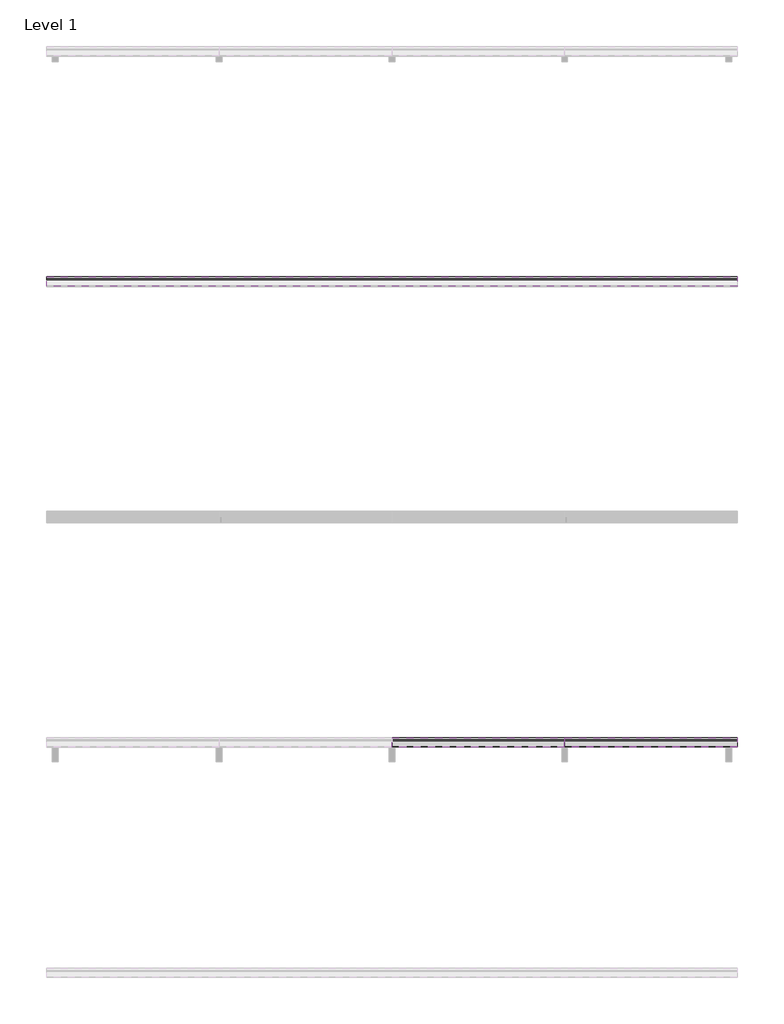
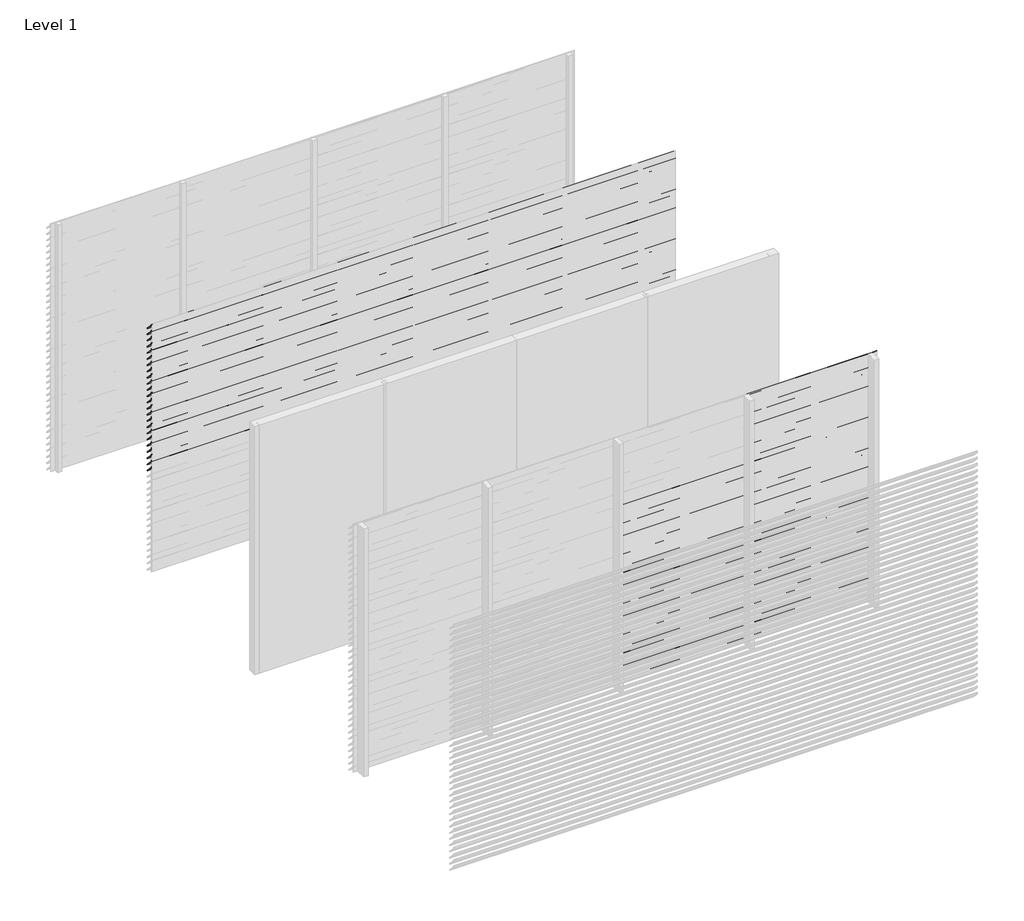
# One storey, part 3 of 9: 93 proxies.
"""IFC4 building model written with IfcOpenShell, lengths in millimetres."""

from ifc_helpers import new_model, si_unit, frame, origin, place, context, project, spatial, polyline, outline, extrude, element, save

model = new_model("IFC4")

# Units and contexts
model_context = context("Model", 3, world=origin())
ifc_project = project(units=[si_unit("LENGTHUNIT", "METRE", prefix="MILLI")], contexts=[model_context])

# Site, building, storey
site = spatial("IfcSite", under=ifc_project)
building = spatial("IfcBuilding", under=site)
storey = spatial("IfcBuildingStorey", under=building, Name="Level 1", Elevation=0.0)

# Proxies
placement = place(None, origin())
element("IfcBuildingElementProxy", 1, Name="Wall Sweeps", at=placement, inside=storey, context=model_context, shape_type="SweptSolid", body=[
    extrude(outline(polyline([(-13995.0, 3000.0), (-13995.0, 2987.7713645), (-13917.0, 2907.0), (-13917.0, 2898.0), (-13997.0, 2980.8424251), (-13997.0, 3000.0), (-13995.0, 3000.0)])), frame((0.0, 0.0, 0.0), z_axis=(1.0, 0.0, 0.0), x_axis=(0.0, 1.0, 0.0)), (0.0, 0.0, 1.0), 6000.0),
])
element("IfcBuildingElementProxy", 2, Name="Wall Sweeps", at=placement, inside=storey, context=model_context, shape_type="SweptSolid", body=[
    extrude(outline(polyline([(-13995.0, 2925.0), (-13995.0, 2912.7713645), (-13917.0, 2832.0), (-13917.0, 2823.0), (-13997.0, 2905.8424251), (-13997.0, 2925.0), (-13995.0, 2925.0)])), frame((0.0, 0.0, 0.0), z_axis=(1.0, 0.0, 0.0), x_axis=(0.0, 1.0, 0.0)), (0.0, 0.0, 1.0), 6000.0),
])
element("IfcBuildingElementProxy", 3, Name="Wall Sweeps", at=placement, inside=storey, context=model_context, shape_type="SweptSolid", body=[
    extrude(outline(polyline([(-13995.0, 2850.0), (-13995.0, 2837.7713645), (-13917.0, 2757.0), (-13917.0, 2748.0), (-13997.0, 2830.8424251), (-13997.0, 2850.0), (-13995.0, 2850.0)])), frame((0.0, 0.0, 0.0), z_axis=(1.0, 0.0, 0.0), x_axis=(0.0, 1.0, 0.0)), (0.0, 0.0, 1.0), 6000.0),
])
element("IfcBuildingElementProxy", 4, Name="Wall Sweeps", at=placement, inside=storey, context=model_context, shape_type="SweptSolid", body=[
    extrude(outline(polyline([(-13995.0, 2775.0), (-13995.0, 2762.7713645), (-13917.0, 2682.0), (-13917.0, 2673.0), (-13997.0, 2755.8424251), (-13997.0, 2775.0), (-13995.0, 2775.0)])), frame((0.0, 0.0, 0.0), z_axis=(1.0, 0.0, 0.0), x_axis=(0.0, 1.0, 0.0)), (0.0, 0.0, 1.0), 6000.0),
])
element("IfcBuildingElementProxy", 5, Name="Wall Sweeps", at=placement, inside=storey, context=model_context, shape_type="SweptSolid", body=[
    extrude(outline(polyline([(-13995.0, 2700.0), (-13995.0, 2687.7713645), (-13917.0, 2607.0), (-13917.0, 2598.0), (-13997.0, 2680.8424251), (-13997.0, 2700.0), (-13995.0, 2700.0)])), frame((0.0, 0.0, 0.0), z_axis=(1.0, 0.0, 0.0), x_axis=(0.0, 1.0, 0.0)), (0.0, 0.0, 1.0), 6000.0),
])
element("IfcBuildingElementProxy", 6, Name="Wall Sweeps", at=placement, inside=storey, context=model_context, shape_type="SweptSolid", body=[
    extrude(outline(polyline([(-13995.0, 2625.0), (-13995.0, 2612.7713645), (-13917.0, 2532.0), (-13917.0, 2523.0), (-13997.0, 2605.8424251), (-13997.0, 2625.0), (-13995.0, 2625.0)])), frame((0.0, 0.0, 0.0), z_axis=(1.0, 0.0, 0.0), x_axis=(0.0, 1.0, 0.0)), (0.0, 0.0, 1.0), 6000.0),
])
element("IfcBuildingElementProxy", 7, Name="Wall Sweeps", at=placement, inside=storey, context=model_context, shape_type="SweptSolid", body=[
    extrude(outline(polyline([(-13995.0, 2550.0), (-13995.0, 2537.7713645), (-13917.0, 2457.0), (-13917.0, 2448.0), (-13997.0, 2530.8424251), (-13997.0, 2550.0), (-13995.0, 2550.0)])), frame((0.0, 0.0, 0.0), z_axis=(1.0, 0.0, 0.0), x_axis=(0.0, 1.0, 0.0)), (0.0, 0.0, 1.0), 6000.0),
])
element("IfcBuildingElementProxy", 8, Name="Wall Sweeps", at=placement, inside=storey, context=model_context, shape_type="SweptSolid", body=[
    extrude(outline(polyline([(-13995.0, 2475.0), (-13995.0, 2462.7713645), (-13917.0, 2382.0), (-13917.0, 2373.0), (-13997.0, 2455.8424251), (-13997.0, 2475.0), (-13995.0, 2475.0)])), frame((0.0, 0.0, 0.0), z_axis=(1.0, 0.0, 0.0), x_axis=(0.0, 1.0, 0.0)), (0.0, 0.0, 1.0), 6000.0),
])
element("IfcBuildingElementProxy", 9, Name="Wall Sweeps", at=placement, inside=storey, context=model_context, shape_type="SweptSolid", body=[
    extrude(outline(polyline([(-13995.0, 2400.0), (-13995.0, 2387.7713645), (-13917.0, 2307.0), (-13917.0, 2298.0), (-13997.0, 2380.8424251), (-13997.0, 2400.0), (-13995.0, 2400.0)])), frame((0.0, 0.0, 0.0), z_axis=(1.0, 0.0, 0.0), x_axis=(0.0, 1.0, 0.0)), (0.0, 0.0, 1.0), 6000.0),
])
element("IfcBuildingElementProxy", 10, Name="Wall Sweeps", at=placement, inside=storey, context=model_context, shape_type="SweptSolid", body=[
    extrude(outline(polyline([(-13995.0, 2325.0), (-13995.0, 2312.7713645), (-13917.0, 2232.0), (-13917.0, 2223.0), (-13997.0, 2305.8424251), (-13997.0, 2325.0), (-13995.0, 2325.0)])), frame((0.0, 0.0, 0.0), z_axis=(1.0, 0.0, 0.0), x_axis=(0.0, 1.0, 0.0)), (0.0, 0.0, 1.0), 6000.0),
])
element("IfcBuildingElementProxy", 11, Name="Wall Sweeps", at=placement, inside=storey, context=model_context, shape_type="SweptSolid", body=[
    extrude(outline(polyline([(-13995.0, 2250.0), (-13995.0, 2237.7713645), (-13917.0, 2157.0), (-13917.0, 2148.0), (-13997.0, 2230.8424251), (-13997.0, 2250.0), (-13995.0, 2250.0)])), frame((0.0, 0.0, 0.0), z_axis=(1.0, 0.0, 0.0), x_axis=(0.0, 1.0, 0.0)), (0.0, 0.0, 1.0), 6000.0),
])
element("IfcBuildingElementProxy", 12, Name="Wall Sweeps", at=placement, inside=storey, context=model_context, shape_type="SweptSolid", body=[
    extrude(outline(polyline([(-13995.0, 2175.0), (-13995.0, 2162.7713645), (-13917.0, 2082.0), (-13917.0, 2073.0), (-13997.0, 2155.8424251), (-13997.0, 2175.0), (-13995.0, 2175.0)])), frame((0.0, 0.0, 0.0), z_axis=(1.0, 0.0, 0.0), x_axis=(0.0, 1.0, 0.0)), (0.0, 0.0, 1.0), 6000.0),
])
element("IfcBuildingElementProxy", 13, Name="Wall Sweeps", at=placement, inside=storey, context=model_context, shape_type="SweptSolid", body=[
    extrude(outline(polyline([(-13995.0, 2100.0), (-13995.0, 2087.7713645), (-13917.0, 2007.0), (-13917.0, 1998.0), (-13997.0, 2080.8424251), (-13997.0, 2100.0), (-13995.0, 2100.0)])), frame((0.0, 0.0, 0.0), z_axis=(1.0, 0.0, 0.0), x_axis=(0.0, 1.0, 0.0)), (0.0, 0.0, 1.0), 6000.0),
])
element("IfcBuildingElementProxy", 14, Name="Wall Sweeps", at=placement, inside=storey, context=model_context, shape_type="SweptSolid", body=[
    extrude(outline(polyline([(-13995.0, 2025.0), (-13995.0, 2012.7713645), (-13917.0, 1932.0), (-13917.0, 1923.0), (-13997.0, 2005.8424251), (-13997.0, 2025.0), (-13995.0, 2025.0)])), frame((0.0, 0.0, 0.0), z_axis=(1.0, 0.0, 0.0), x_axis=(0.0, 1.0, 0.0)), (0.0, 0.0, 1.0), 6000.0),
])
element("IfcBuildingElementProxy", 15, Name="Wall Sweeps", at=placement, inside=storey, context=model_context, shape_type="SweptSolid", body=[
    extrude(outline(polyline([(-13995.0, 1950.0), (-13995.0, 1937.7713645), (-13917.0, 1857.0), (-13917.0, 1848.0), (-13997.0, 1930.8424251), (-13997.0, 1950.0), (-13995.0, 1950.0)])), frame((0.0, 0.0, 0.0), z_axis=(1.0, 0.0, 0.0), x_axis=(0.0, 1.0, 0.0)), (0.0, 0.0, 1.0), 6000.0),
])
element("IfcBuildingElementProxy", 16, Name="Wall Sweeps", at=placement, inside=storey, context=model_context, shape_type="SweptSolid", body=[
    extrude(outline(polyline([(-13995.0, 1875.0), (-13995.0, 1862.7713645), (-13917.0, 1782.0), (-13917.0, 1773.0), (-13997.0, 1855.8424251), (-13997.0, 1875.0), (-13995.0, 1875.0)])), frame((0.0, 0.0, 0.0), z_axis=(1.0, 0.0, 0.0), x_axis=(0.0, 1.0, 0.0)), (0.0, 0.0, 1.0), 6000.0),
])
element("IfcBuildingElementProxy", 17, Name="Wall Sweeps", at=placement, inside=storey, context=model_context, shape_type="SweptSolid", body=[
    extrude(outline(polyline([(-13995.0, 1800.0), (-13995.0, 1787.7713645), (-13917.0, 1707.0), (-13917.0, 1698.0), (-13997.0, 1780.8424251), (-13997.0, 1800.0), (-13995.0, 1800.0)])), frame((0.0, 0.0, 0.0), z_axis=(1.0, 0.0, 0.0), x_axis=(0.0, 1.0, 0.0)), (0.0, 0.0, 1.0), 6000.0),
])
element("IfcBuildingElementProxy", 18, Name="Wall Sweeps", at=placement, inside=storey, context=model_context, shape_type="SweptSolid", body=[
    extrude(outline(polyline([(-13995.0, 1725.0), (-13995.0, 1712.7713645), (-13917.0, 1632.0), (-13917.0, 1623.0), (-13997.0, 1705.8424251), (-13997.0, 1725.0), (-13995.0, 1725.0)])), frame((0.0, 0.0, 0.0), z_axis=(1.0, 0.0, 0.0), x_axis=(0.0, 1.0, 0.0)), (0.0, 0.0, 1.0), 6000.0),
])
element("IfcBuildingElementProxy", 19, Name="Wall Sweeps", at=placement, inside=storey, context=model_context, shape_type="SweptSolid", body=[
    extrude(outline(polyline([(-13995.0, 1650.0), (-13995.0, 1637.7713645), (-13917.0, 1557.0), (-13917.0, 1548.0), (-13997.0, 1630.8424251), (-13997.0, 1650.0), (-13995.0, 1650.0)])), frame((0.0, 0.0, 0.0), z_axis=(1.0, 0.0, 0.0), x_axis=(0.0, 1.0, 0.0)), (0.0, 0.0, 1.0), 6000.0),
])
element("IfcBuildingElementProxy", 20, Name="Wall Sweeps", at=placement, inside=storey, context=model_context, shape_type="SweptSolid", body=[
    extrude(outline(polyline([(-13995.0, 1575.0), (-13995.0, 1562.7713645), (-13917.0, 1482.0), (-13917.0, 1473.0), (-13997.0, 1555.8424251), (-13997.0, 1575.0), (-13995.0, 1575.0)])), frame((0.0, 0.0, 0.0), z_axis=(1.0, 0.0, 0.0), x_axis=(0.0, 1.0, 0.0)), (0.0, 0.0, 1.0), 6000.0),
])
element("IfcBuildingElementProxy", 21, Name="Wall Sweeps", at=placement, inside=storey, context=model_context, shape_type="SweptSolid", body=[
    extrude(outline(polyline([(-13995.0, 1500.0), (-13995.0, 1487.7713645), (-13917.0, 1407.0), (-13917.0, 1398.0), (-13997.0, 1480.8424251), (-13997.0, 1500.0), (-13995.0, 1500.0)])), frame((0.0, 0.0, 0.0), z_axis=(1.0, 0.0, 0.0), x_axis=(0.0, 1.0, 0.0)), (0.0, 0.0, 1.0), 6000.0),
])
element("IfcBuildingElementProxy", 22, Name="Wall Sweeps", at=placement, inside=storey, context=model_context, shape_type="SweptSolid", body=[
    extrude(outline(polyline([(-13995.0, 1425.0), (-13995.0, 1412.7713645), (-13917.0, 1332.0), (-13917.0, 1323.0), (-13997.0, 1405.8424251), (-13997.0, 1425.0), (-13995.0, 1425.0)])), frame((0.0, 0.0, 0.0), z_axis=(1.0, 0.0, 0.0), x_axis=(0.0, 1.0, 0.0)), (0.0, 0.0, 1.0), 6000.0),
])
element("IfcBuildingElementProxy", 23, Name="Wall Sweeps", at=placement, inside=storey, context=model_context, shape_type="SweptSolid", body=[
    extrude(outline(polyline([(-13995.0, 1350.0), (-13995.0, 1337.7713645), (-13917.0, 1257.0), (-13917.0, 1248.0), (-13997.0, 1330.8424251), (-13997.0, 1350.0), (-13995.0, 1350.0)])), frame((0.0, 0.0, 0.0), z_axis=(1.0, 0.0, 0.0), x_axis=(0.0, 1.0, 0.0)), (0.0, 0.0, 1.0), 6000.0),
])
element("IfcBuildingElementProxy", 24, Name="Wall Sweeps", at=placement, inside=storey, context=model_context, shape_type="SweptSolid", body=[
    extrude(outline(polyline([(-13995.0, 1275.0), (-13995.0, 1262.7713645), (-13917.0, 1182.0), (-13917.0, 1173.0), (-13997.0, 1255.8424251), (-13997.0, 1275.0), (-13995.0, 1275.0)])), frame((0.0, 0.0, 0.0), z_axis=(1.0, 0.0, 0.0), x_axis=(0.0, 1.0, 0.0)), (0.0, 0.0, 1.0), 6000.0),
])
element("IfcBuildingElementProxy", 25, Name="Wall Sweeps", at=placement, inside=storey, context=model_context, shape_type="SweptSolid", body=[
    extrude(outline(polyline([(-17995.0, 3000.0), (-17995.0, 2987.7713645), (-17917.0, 2907.0), (-17917.0, 2898.0), (-17997.0, 2980.8424251), (-17997.0, 3000.0), (-17995.0, 3000.0)])), frame((4499.9999998, 0.0, 0.0), z_axis=(1.0, 0.0, 0.0), x_axis=(0.0, 1.0, 0.0)), (0.0, 0.0, 1.0), 1500.0000002),
])
element("IfcBuildingElementProxy", 26, Name="Wall Sweeps", at=placement, inside=storey, context=model_context, shape_type="SweptSolid", body=[
    extrude(outline(polyline([(-17995.0, 2925.0), (-17995.0, 2912.7713645), (-17917.0, 2832.0), (-17917.0, 2823.0), (-17997.0, 2905.8424251), (-17997.0, 2925.0), (-17995.0, 2925.0)])), frame((4499.9999998, 0.0, 0.0), z_axis=(1.0, 0.0, 0.0), x_axis=(0.0, 1.0, 0.0)), (0.0, 0.0, 1.0), 1500.0000002),
])
element("IfcBuildingElementProxy", 27, Name="Wall Sweeps", at=placement, inside=storey, context=model_context, shape_type="SweptSolid", body=[
    extrude(outline(polyline([(-17995.0, 2850.0), (-17995.0, 2837.7713645), (-17917.0, 2757.0), (-17917.0, 2748.0), (-17997.0, 2830.8424251), (-17997.0, 2850.0), (-17995.0, 2850.0)])), frame((4499.9999998, 0.0, 0.0), z_axis=(1.0, 0.0, 0.0), x_axis=(0.0, 1.0, 0.0)), (0.0, 0.0, 1.0), 1500.0000002),
])
element("IfcBuildingElementProxy", 28, Name="Wall Sweeps", at=placement, inside=storey, context=model_context, shape_type="SweptSolid", body=[
    extrude(outline(polyline([(-17995.0, 2775.0), (-17995.0, 2762.7713645), (-17917.0, 2682.0), (-17917.0, 2673.0), (-17997.0, 2755.8424251), (-17997.0, 2775.0), (-17995.0, 2775.0)])), frame((4499.9999998, 0.0, 0.0), z_axis=(1.0, 0.0, 0.0), x_axis=(0.0, 1.0, 0.0)), (0.0, 0.0, 1.0), 1500.0000002),
])
element("IfcBuildingElementProxy", 29, Name="Wall Sweeps", at=placement, inside=storey, context=model_context, shape_type="SweptSolid", body=[
    extrude(outline(polyline([(-17995.0, 2700.0), (-17995.0, 2687.7713645), (-17917.0, 2607.0), (-17917.0, 2598.0), (-17997.0, 2680.8424251), (-17997.0, 2700.0), (-17995.0, 2700.0)])), frame((4499.9999998, 0.0, 0.0), z_axis=(1.0, 0.0, 0.0), x_axis=(0.0, 1.0, 0.0)), (0.0, 0.0, 1.0), 1500.0000002),
])
element("IfcBuildingElementProxy", 30, Name="Wall Sweeps", at=placement, inside=storey, context=model_context, shape_type="SweptSolid", body=[
    extrude(outline(polyline([(-17995.0, 2625.0), (-17995.0, 2612.7713645), (-17917.0, 2532.0), (-17917.0, 2523.0), (-17997.0, 2605.8424251), (-17997.0, 2625.0), (-17995.0, 2625.0)])), frame((4499.9999998, 0.0, 0.0), z_axis=(1.0, 0.0, 0.0), x_axis=(0.0, 1.0, 0.0)), (0.0, 0.0, 1.0), 1500.0000002),
])
element("IfcBuildingElementProxy", 31, Name="Wall Sweeps", at=placement, inside=storey, context=model_context, shape_type="SweptSolid", body=[
    extrude(outline(polyline([(-17995.0, 2550.0), (-17995.0, 2537.7713645), (-17917.0, 2457.0), (-17917.0, 2448.0), (-17997.0, 2530.8424251), (-17997.0, 2550.0), (-17995.0, 2550.0)])), frame((4499.9999998, 0.0, 0.0), z_axis=(1.0, 0.0, 0.0), x_axis=(0.0, 1.0, 0.0)), (0.0, 0.0, 1.0), 1500.0000002),
])
element("IfcBuildingElementProxy", 32, Name="Wall Sweeps", at=placement, inside=storey, context=model_context, shape_type="SweptSolid", body=[
    extrude(outline(polyline([(-17995.0, 2475.0), (-17995.0, 2462.7713645), (-17917.0, 2382.0), (-17917.0, 2373.0), (-17997.0, 2455.8424251), (-17997.0, 2475.0), (-17995.0, 2475.0)])), frame((4499.9999998, 0.0, 0.0), z_axis=(1.0, 0.0, 0.0), x_axis=(0.0, 1.0, 0.0)), (0.0, 0.0, 1.0), 1500.0000002),
])
element("IfcBuildingElementProxy", 33, Name="Wall Sweeps", at=placement, inside=storey, context=model_context, shape_type="SweptSolid", body=[
    extrude(outline(polyline([(-17995.0, 2400.0), (-17995.0, 2387.7713645), (-17917.0, 2307.0), (-17917.0, 2298.0), (-17997.0, 2380.8424251), (-17997.0, 2400.0), (-17995.0, 2400.0)])), frame((4499.9999998, 0.0, 0.0), z_axis=(1.0, 0.0, 0.0), x_axis=(0.0, 1.0, 0.0)), (0.0, 0.0, 1.0), 1500.0000002),
])
element("IfcBuildingElementProxy", 34, Name="Wall Sweeps", at=placement, inside=storey, context=model_context, shape_type="SweptSolid", body=[
    extrude(outline(polyline([(-17995.0, 2325.0), (-17995.0, 2312.7713645), (-17917.0, 2232.0), (-17917.0, 2223.0), (-17997.0, 2305.8424251), (-17997.0, 2325.0), (-17995.0, 2325.0)])), frame((4499.9999998, 0.0, 0.0), z_axis=(1.0, 0.0, 0.0), x_axis=(0.0, 1.0, 0.0)), (0.0, 0.0, 1.0), 1500.0000002),
])
element("IfcBuildingElementProxy", 35, Name="Wall Sweeps", at=placement, inside=storey, context=model_context, shape_type="SweptSolid", body=[
    extrude(outline(polyline([(-17995.0, 2250.0), (-17995.0, 2237.7713645), (-17917.0, 2157.0), (-17917.0, 2148.0), (-17997.0, 2230.8424251), (-17997.0, 2250.0), (-17995.0, 2250.0)])), frame((4499.9999998, 0.0, 0.0), z_axis=(1.0, 0.0, 0.0), x_axis=(0.0, 1.0, 0.0)), (0.0, 0.0, 1.0), 1500.0000002),
])
element("IfcBuildingElementProxy", 36, Name="Wall Sweeps", at=placement, inside=storey, context=model_context, shape_type="SweptSolid", body=[
    extrude(outline(polyline([(-17995.0, 2175.0), (-17995.0, 2162.7713645), (-17917.0, 2082.0), (-17917.0, 2073.0), (-17997.0, 2155.8424251), (-17997.0, 2175.0), (-17995.0, 2175.0)])), frame((4499.9999998, 0.0, 0.0), z_axis=(1.0, 0.0, 0.0), x_axis=(0.0, 1.0, 0.0)), (0.0, 0.0, 1.0), 1500.0000002),
])
element("IfcBuildingElementProxy", 37, Name="Wall Sweeps", at=placement, inside=storey, context=model_context, shape_type="SweptSolid", body=[
    extrude(outline(polyline([(-17995.0, 2100.0), (-17995.0, 2087.7713645), (-17917.0, 2007.0), (-17917.0, 1998.0), (-17997.0, 2080.8424251), (-17997.0, 2100.0), (-17995.0, 2100.0)])), frame((4499.9999998, 0.0, 0.0), z_axis=(1.0, 0.0, 0.0), x_axis=(0.0, 1.0, 0.0)), (0.0, 0.0, 1.0), 1500.0000002),
])
element("IfcBuildingElementProxy", 38, Name="Wall Sweeps", at=placement, inside=storey, context=model_context, shape_type="SweptSolid", body=[
    extrude(outline(polyline([(-17995.0, 2025.0), (-17995.0, 2012.7713645), (-17917.0, 1932.0), (-17917.0, 1923.0), (-17997.0, 2005.8424251), (-17997.0, 2025.0), (-17995.0, 2025.0)])), frame((4499.9999998, 0.0, 0.0), z_axis=(1.0, 0.0, 0.0), x_axis=(0.0, 1.0, 0.0)), (0.0, 0.0, 1.0), 1500.0000002),
])
element("IfcBuildingElementProxy", 39, Name="Wall Sweeps", at=placement, inside=storey, context=model_context, shape_type="SweptSolid", body=[
    extrude(outline(polyline([(-17995.0, 1950.0), (-17995.0, 1937.7713645), (-17917.0, 1857.0), (-17917.0, 1848.0), (-17997.0, 1930.8424251), (-17997.0, 1950.0), (-17995.0, 1950.0)])), frame((4499.9999998, 0.0, 0.0), z_axis=(1.0, 0.0, 0.0), x_axis=(0.0, 1.0, 0.0)), (0.0, 0.0, 1.0), 1500.0000002),
])
element("IfcBuildingElementProxy", 40, Name="Wall Sweeps", at=placement, inside=storey, context=model_context, shape_type="SweptSolid", body=[
    extrude(outline(polyline([(-17995.0, 1875.0), (-17995.0, 1862.7713645), (-17917.0, 1782.0), (-17917.0, 1773.0), (-17997.0, 1855.8424251), (-17997.0, 1875.0), (-17995.0, 1875.0)])), frame((4499.9999998, 0.0, 0.0), z_axis=(1.0, 0.0, 0.0), x_axis=(0.0, 1.0, 0.0)), (0.0, 0.0, 1.0), 1500.0000002),
])
element("IfcBuildingElementProxy", 41, Name="Wall Sweeps", at=placement, inside=storey, context=model_context, shape_type="SweptSolid", body=[
    extrude(outline(polyline([(-17995.0, 1800.0), (-17995.0, 1787.7713645), (-17917.0, 1707.0), (-17917.0, 1698.0), (-17997.0, 1780.8424251), (-17997.0, 1800.0), (-17995.0, 1800.0)])), frame((4499.9999998, 0.0, 0.0), z_axis=(1.0, 0.0, 0.0), x_axis=(0.0, 1.0, 0.0)), (0.0, 0.0, 1.0), 1500.0000002),
])
element("IfcBuildingElementProxy", 42, Name="Wall Sweeps", at=placement, inside=storey, context=model_context, shape_type="SweptSolid", body=[
    extrude(outline(polyline([(-17995.0, 1725.0), (-17995.0, 1712.7713645), (-17917.0, 1632.0), (-17917.0, 1623.0), (-17997.0, 1705.8424251), (-17997.0, 1725.0), (-17995.0, 1725.0)])), frame((4499.9999998, 0.0, 0.0), z_axis=(1.0, 0.0, 0.0), x_axis=(0.0, 1.0, 0.0)), (0.0, 0.0, 1.0), 1500.0000002),
])
element("IfcBuildingElementProxy", 43, Name="Wall Sweeps", at=placement, inside=storey, context=model_context, shape_type="SweptSolid", body=[
    extrude(outline(polyline([(-17995.0, 1650.0), (-17995.0, 1637.7713645), (-17917.0, 1557.0), (-17917.0, 1548.0), (-17997.0, 1630.8424251), (-17997.0, 1650.0), (-17995.0, 1650.0)])), frame((4499.9999998, 0.0, 0.0), z_axis=(1.0, 0.0, 0.0), x_axis=(0.0, 1.0, 0.0)), (0.0, 0.0, 1.0), 1500.0000002),
])
element("IfcBuildingElementProxy", 44, Name="Wall Sweeps", at=placement, inside=storey, context=model_context, shape_type="SweptSolid", body=[
    extrude(outline(polyline([(-17995.0, 1575.0), (-17995.0, 1562.7713645), (-17917.0, 1482.0), (-17917.0, 1473.0), (-17997.0, 1555.8424251), (-17997.0, 1575.0), (-17995.0, 1575.0)])), frame((4499.9999998, 0.0, 0.0), z_axis=(1.0, 0.0, 0.0), x_axis=(0.0, 1.0, 0.0)), (0.0, 0.0, 1.0), 1500.0000002),
])
element("IfcBuildingElementProxy", 45, Name="Wall Sweeps", at=placement, inside=storey, context=model_context, shape_type="SweptSolid", body=[
    extrude(outline(polyline([(-17995.0, 1500.0), (-17995.0, 1487.7713645), (-17917.0, 1407.0), (-17917.0, 1398.0), (-17997.0, 1480.8424251), (-17997.0, 1500.0), (-17995.0, 1500.0)])), frame((4499.9999998, 0.0, 0.0), z_axis=(1.0, 0.0, 0.0), x_axis=(0.0, 1.0, 0.0)), (0.0, 0.0, 1.0), 1500.0000002),
])
element("IfcBuildingElementProxy", 46, Name="Wall Sweeps", at=placement, inside=storey, context=model_context, shape_type="SweptSolid", body=[
    extrude(outline(polyline([(-17995.0, 1425.0), (-17995.0, 1412.7713645), (-17917.0, 1332.0), (-17917.0, 1323.0), (-17997.0, 1405.8424251), (-17997.0, 1425.0), (-17995.0, 1425.0)])), frame((4499.9999998, 0.0, 0.0), z_axis=(1.0, 0.0, 0.0), x_axis=(0.0, 1.0, 0.0)), (0.0, 0.0, 1.0), 1500.0000002),
])
element("IfcBuildingElementProxy", 47, Name="Wall Sweeps", at=placement, inside=storey, context=model_context, shape_type="SweptSolid", body=[
    extrude(outline(polyline([(-17995.0, 1350.0), (-17995.0, 1337.7713645), (-17917.0, 1257.0), (-17917.0, 1248.0), (-17997.0, 1330.8424251), (-17997.0, 1350.0), (-17995.0, 1350.0)])), frame((4499.9999998, 0.0, 0.0), z_axis=(1.0, 0.0, 0.0), x_axis=(0.0, 1.0, 0.0)), (0.0, 0.0, 1.0), 1500.0000002),
])
element("IfcBuildingElementProxy", 48, Name="Wall Sweeps", at=placement, inside=storey, context=model_context, shape_type="SweptSolid", body=[
    extrude(outline(polyline([(-17995.0, 1275.0), (-17995.0, 1262.7713645), (-17917.0, 1182.0), (-17917.0, 1173.0), (-17997.0, 1255.8424251), (-17997.0, 1275.0), (-17995.0, 1275.0)])), frame((4499.9999998, 0.0, 0.0), z_axis=(1.0, 0.0, 0.0), x_axis=(0.0, 1.0, 0.0)), (0.0, 0.0, 1.0), 1500.0000002),
])
element("IfcBuildingElementProxy", 49, Name="Wall Sweeps", at=placement, inside=storey, context=model_context, shape_type="SweptSolid", body=[
    extrude(outline(polyline([(-17995.0, 1200.0), (-17995.0, 1187.7713645), (-17917.0, 1107.0), (-17917.0, 1098.0), (-17997.0, 1180.8424251), (-17997.0, 1200.0), (-17995.0, 1200.0)])), frame((4499.9999998, 0.0, 0.0), z_axis=(1.0, 0.0, 0.0), x_axis=(0.0, 1.0, 0.0)), (0.0, 0.0, 1.0), 1500.0000002),
])
element("IfcBuildingElementProxy", 50, Name="Wall Sweeps", at=placement, inside=storey, context=model_context, shape_type="SweptSolid", body=[
    extrude(outline(polyline([(-17995.0, 1125.0), (-17995.0, 1112.7713645), (-17917.0, 1032.0), (-17917.0, 1023.0), (-17997.0, 1105.8424251), (-17997.0, 1125.0), (-17995.0, 1125.0)])), frame((4499.9999998, 0.0, 0.0), z_axis=(1.0, 0.0, 0.0), x_axis=(0.0, 1.0, 0.0)), (0.0, 0.0, 1.0), 1500.0000002),
])
element("IfcBuildingElementProxy", 51, Name="Wall Sweeps", at=placement, inside=storey, context=model_context, shape_type="SweptSolid", body=[
    extrude(outline(polyline([(-17995.0, 1050.0), (-17995.0, 1037.7713645), (-17917.0, 957.0), (-17917.0, 948.0), (-17997.0, 1030.8424251), (-17997.0, 1050.0), (-17995.0, 1050.0)])), frame((4499.9999998, 0.0, 0.0), z_axis=(1.0, 0.0, 0.0), x_axis=(0.0, 1.0, 0.0)), (0.0, 0.0, 1.0), 1500.0000002),
])
element("IfcBuildingElementProxy", 52, Name="Wall Sweeps", at=placement, inside=storey, context=model_context, shape_type="SweptSolid", body=[
    extrude(outline(polyline([(-17995.0, 975.0), (-17995.0, 962.7713645), (-17917.0, 882.0), (-17917.0, 873.0), (-17997.0, 955.8424251), (-17997.0, 975.0), (-17995.0, 975.0)])), frame((4499.9999998, 0.0, 0.0), z_axis=(1.0, 0.0, 0.0), x_axis=(0.0, 1.0, 0.0)), (0.0, 0.0, 1.0), 1500.0000002),
])
element("IfcBuildingElementProxy", 53, Name="Wall Sweeps", at=placement, inside=storey, context=model_context, shape_type="SweptSolid", body=[
    extrude(outline(polyline([(-17995.0, 900.0), (-17995.0, 887.7713645), (-17917.0, 807.0), (-17917.0, 798.0), (-17997.0, 880.8424251), (-17997.0, 900.0), (-17995.0, 900.0)])), frame((4499.9999998, 0.0, 0.0), z_axis=(1.0, 0.0, 0.0), x_axis=(0.0, 1.0, 0.0)), (0.0, 0.0, 1.0), 1500.0000002),
])
element("IfcBuildingElementProxy", 54, Name="Wall Sweeps", at=placement, inside=storey, context=model_context, shape_type="SweptSolid", body=[
    extrude(outline(polyline([(-17995.0, 825.0), (-17995.0, 812.7713645), (-17917.0, 732.0), (-17917.0, 723.0), (-17997.0, 805.8424251), (-17997.0, 825.0), (-17995.0, 825.0)])), frame((4499.9999998, 0.0, 0.0), z_axis=(1.0, 0.0, 0.0), x_axis=(0.0, 1.0, 0.0)), (0.0, 0.0, 1.0), 1500.0000002),
])
element("IfcBuildingElementProxy", 55, Name="Wall Sweeps", at=placement, inside=storey, context=model_context, shape_type="SweptSolid", body=[
    extrude(outline(polyline([(-17995.0, 750.0), (-17995.0, 737.7713645), (-17917.0, 657.0), (-17917.0, 648.0), (-17997.0, 730.8424251), (-17997.0, 750.0), (-17995.0, 750.0)])), frame((4499.9999998, 0.0, 0.0), z_axis=(1.0, 0.0, 0.0), x_axis=(0.0, 1.0, 0.0)), (0.0, 0.0, 1.0), 1500.0000002),
])
element("IfcBuildingElementProxy", 56, Name="Wall Sweeps", at=placement, inside=storey, context=model_context, shape_type="SweptSolid", body=[
    extrude(outline(polyline([(-17995.0, 675.0), (-17995.0, 662.7713645), (-17917.0, 582.0), (-17917.0, 573.0), (-17997.0, 655.8424251), (-17997.0, 675.0), (-17995.0, 675.0)])), frame((4499.9999998, 0.0, 0.0), z_axis=(1.0, 0.0, 0.0), x_axis=(0.0, 1.0, 0.0)), (0.0, 0.0, 1.0), 1500.0000002),
])
element("IfcBuildingElementProxy", 57, Name="Wall Sweeps", at=placement, inside=storey, context=model_context, shape_type="SweptSolid", body=[
    extrude(outline(polyline([(-17995.0, 600.0), (-17995.0, 587.7713645), (-17917.0, 507.0), (-17917.0, 498.0), (-17997.0, 580.8424251), (-17997.0, 600.0), (-17995.0, 600.0)])), frame((4499.9999998, 0.0, 0.0), z_axis=(1.0, 0.0, 0.0), x_axis=(0.0, 1.0, 0.0)), (0.0, 0.0, 1.0), 1500.0000002),
])
element("IfcBuildingElementProxy", 58, Name="Wall Sweeps", at=placement, inside=storey, context=model_context, shape_type="SweptSolid", body=[
    extrude(outline(polyline([(-17995.0, 525.0), (-17995.0, 512.7713645), (-17917.0, 432.0), (-17917.0, 423.0), (-17997.0, 505.8424251), (-17997.0, 525.0), (-17995.0, 525.0)])), frame((4499.9999998, 0.0, 0.0), z_axis=(1.0, 0.0, 0.0), x_axis=(0.0, 1.0, 0.0)), (0.0, 0.0, 1.0), 1500.0000002),
])
element("IfcBuildingElementProxy", 59, Name="Wall Sweeps", at=placement, inside=storey, context=model_context, shape_type="SweptSolid", body=[
    extrude(outline(polyline([(-17995.0, 450.0), (-17995.0, 437.7713645), (-17917.0, 357.0), (-17917.0, 348.0), (-17997.0, 430.8424251), (-17997.0, 450.0), (-17995.0, 450.0)])), frame((4499.9999998, 0.0, 0.0), z_axis=(1.0, 0.0, 0.0), x_axis=(0.0, 1.0, 0.0)), (0.0, 0.0, 1.0), 1500.0000002),
])
element("IfcBuildingElementProxy", 60, Name="Wall Sweeps", at=placement, inside=storey, context=model_context, shape_type="SweptSolid", body=[
    extrude(outline(polyline([(-17995.0, 375.0), (-17995.0, 362.7713645), (-17917.0, 282.0), (-17917.0, 273.0), (-17997.0, 355.8424251), (-17997.0, 375.0), (-17995.0, 375.0)])), frame((4499.9999998, 0.0, 0.0), z_axis=(1.0, 0.0, 0.0), x_axis=(0.0, 1.0, 0.0)), (0.0, 0.0, 1.0), 1500.0000002),
])
element("IfcBuildingElementProxy", 61, Name="Wall Sweeps", at=placement, inside=storey, context=model_context, shape_type="SweptSolid", body=[
    extrude(outline(polyline([(-17995.0, 300.0), (-17995.0, 287.7713645), (-17917.0, 207.0), (-17917.0, 198.0), (-17997.0, 280.8424251), (-17997.0, 300.0), (-17995.0, 300.0)])), frame((4499.9999998, 0.0, 0.0), z_axis=(1.0, 0.0, 0.0), x_axis=(0.0, 1.0, 0.0)), (0.0, 0.0, 1.0), 1500.0000002),
])
element("IfcBuildingElementProxy", 62, Name="Wall Sweeps", at=placement, inside=storey, context=model_context, shape_type="SweptSolid", body=[
    extrude(outline(polyline([(-17995.0, 225.0), (-17995.0, 212.7713645), (-17917.0, 132.0), (-17917.0, 123.0), (-17997.0, 205.8424251), (-17997.0, 225.0), (-17995.0, 225.0)])), frame((4499.9999998, 0.0, 0.0), z_axis=(1.0, 0.0, 0.0), x_axis=(0.0, 1.0, 0.0)), (0.0, 0.0, 1.0), 1500.0000002),
])
element("IfcBuildingElementProxy", 63, Name="Wall Sweeps", at=placement, inside=storey, context=model_context, shape_type="SweptSolid", body=[
    extrude(outline(polyline([(-17995.0, 150.0), (-17995.0, 137.7713645), (-17917.0, 57.0), (-17917.0, 48.0), (-17997.0, 130.8424251), (-17997.0, 150.0), (-17995.0, 150.0)])), frame((4499.9999998, 0.0, 0.0), z_axis=(1.0, 0.0, 0.0), x_axis=(0.0, 1.0, 0.0)), (0.0, 0.0, 1.0), 1500.0000002),
])
element("IfcBuildingElementProxy", 64, Name="Wall Sweeps", at=placement, inside=storey, context=model_context, shape_type="SweptSolid", body=[
    extrude(outline(polyline([(-17995.0, 75.0), (-17995.0, 62.7713645), (-17917.0, -18.0), (-17917.0, -27.0), (-17997.0, 55.8424251), (-17997.0, 75.0), (-17995.0, 75.0)])), frame((4499.9999998, 0.0, 0.0), z_axis=(1.0, 0.0, 0.0), x_axis=(0.0, 1.0, 0.0)), (0.0, 0.0, 1.0), 1500.0000002),
])
element("IfcBuildingElementProxy", 65, Name="Wall Sweeps", at=placement, inside=storey, context=model_context, shape_type="SweptSolid", body=[
    extrude(outline(polyline([(-17995.0, 2175.0), (-17995.0, 2162.7713645), (-17917.0, 2082.0), (-17917.0, 2073.0), (-17997.0, 2155.8424251), (-17997.0, 2175.0), (-17995.0, 2175.0)])), frame((3000.0, 0.0, 0.0), z_axis=(1.0, 0.0, 0.0), x_axis=(0.0, 1.0, 0.0)), (0.0, 0.0, 1.0), 1499.9999998),
])
element("IfcBuildingElementProxy", 66, Name="Wall Sweeps", at=placement, inside=storey, context=model_context, shape_type="SweptSolid", body=[
    extrude(outline(polyline([(-17995.0, 2100.0), (-17995.0, 2087.7713645), (-17917.0, 2007.0), (-17917.0, 1998.0), (-17997.0, 2080.8424251), (-17997.0, 2100.0), (-17995.0, 2100.0)])), frame((3000.0, 0.0, 0.0), z_axis=(1.0, 0.0, 0.0), x_axis=(0.0, 1.0, 0.0)), (0.0, 0.0, 1.0), 1499.9999998),
])
element("IfcBuildingElementProxy", 67, Name="Wall Sweeps", at=placement, inside=storey, context=model_context, shape_type="SweptSolid", body=[
    extrude(outline(polyline([(-17995.0, 2025.0), (-17995.0, 2012.7713645), (-17917.0, 1932.0), (-17917.0, 1923.0), (-17997.0, 2005.8424251), (-17997.0, 2025.0), (-17995.0, 2025.0)])), frame((3000.0, 0.0, 0.0), z_axis=(1.0, 0.0, 0.0), x_axis=(0.0, 1.0, 0.0)), (0.0, 0.0, 1.0), 1499.9999998),
])
element("IfcBuildingElementProxy", 68, Name="Wall Sweeps", at=placement, inside=storey, context=model_context, shape_type="SweptSolid", body=[
    extrude(outline(polyline([(-17995.0, 1950.0), (-17995.0, 1937.7713645), (-17917.0, 1857.0), (-17917.0, 1848.0), (-17997.0, 1930.8424251), (-17997.0, 1950.0), (-17995.0, 1950.0)])), frame((3000.0, 0.0, 0.0), z_axis=(1.0, 0.0, 0.0), x_axis=(0.0, 1.0, 0.0)), (0.0, 0.0, 1.0), 1499.9999998),
])
element("IfcBuildingElementProxy", 69, Name="Wall Sweeps", at=placement, inside=storey, context=model_context, shape_type="SweptSolid", body=[
    extrude(outline(polyline([(-17995.0, 1875.0), (-17995.0, 1862.7713645), (-17917.0, 1782.0), (-17917.0, 1773.0), (-17997.0, 1855.8424251), (-17997.0, 1875.0), (-17995.0, 1875.0)])), frame((3000.0, 0.0, 0.0), z_axis=(1.0, 0.0, 0.0), x_axis=(0.0, 1.0, 0.0)), (0.0, 0.0, 1.0), 1499.9999998),
])
element("IfcBuildingElementProxy", 70, Name="Wall Sweeps", at=placement, inside=storey, context=model_context, shape_type="SweptSolid", body=[
    extrude(outline(polyline([(-17995.0, 1800.0), (-17995.0, 1787.7713645), (-17917.0, 1707.0), (-17917.0, 1698.0), (-17997.0, 1780.8424251), (-17997.0, 1800.0), (-17995.0, 1800.0)])), frame((3000.0, 0.0, 0.0), z_axis=(1.0, 0.0, 0.0), x_axis=(0.0, 1.0, 0.0)), (0.0, 0.0, 1.0), 1499.9999998),
])
element("IfcBuildingElementProxy", 71, Name="Wall Sweeps", at=placement, inside=storey, context=model_context, shape_type="SweptSolid", body=[
    extrude(outline(polyline([(-17995.0, 1725.0), (-17995.0, 1712.7713645), (-17917.0, 1632.0), (-17917.0, 1623.0), (-17997.0, 1705.8424251), (-17997.0, 1725.0), (-17995.0, 1725.0)])), frame((3000.0, 0.0, 0.0), z_axis=(1.0, 0.0, 0.0), x_axis=(0.0, 1.0, 0.0)), (0.0, 0.0, 1.0), 1499.9999998),
])
element("IfcBuildingElementProxy", 72, Name="Wall Sweeps", at=placement, inside=storey, context=model_context, shape_type="SweptSolid", body=[
    extrude(outline(polyline([(-17995.0, 1650.0), (-17995.0, 1637.7713645), (-17917.0, 1557.0), (-17917.0, 1548.0), (-17997.0, 1630.8424251), (-17997.0, 1650.0), (-17995.0, 1650.0)])), frame((3000.0, 0.0, 0.0), z_axis=(1.0, 0.0, 0.0), x_axis=(0.0, 1.0, 0.0)), (0.0, 0.0, 1.0), 1499.9999998),
])
element("IfcBuildingElementProxy", 73, Name="Wall Sweeps", at=placement, inside=storey, context=model_context, shape_type="SweptSolid", body=[
    extrude(outline(polyline([(-17995.0, 1575.0), (-17995.0, 1562.7713645), (-17917.0, 1482.0), (-17917.0, 1473.0), (-17997.0, 1555.8424251), (-17997.0, 1575.0), (-17995.0, 1575.0)])), frame((3000.0, 0.0, 0.0), z_axis=(1.0, 0.0, 0.0), x_axis=(0.0, 1.0, 0.0)), (0.0, 0.0, 1.0), 1499.9999998),
])
element("IfcBuildingElementProxy", 74, Name="Wall Sweeps", at=placement, inside=storey, context=model_context, shape_type="SweptSolid", body=[
    extrude(outline(polyline([(-17995.0, 1500.0), (-17995.0, 1487.7713645), (-17917.0, 1407.0), (-17917.0, 1398.0), (-17997.0, 1480.8424251), (-17997.0, 1500.0), (-17995.0, 1500.0)])), frame((3000.0, 0.0, 0.0), z_axis=(1.0, 0.0, 0.0), x_axis=(0.0, 1.0, 0.0)), (0.0, 0.0, 1.0), 1499.9999998),
])
element("IfcBuildingElementProxy", 75, Name="Wall Sweeps", at=placement, inside=storey, context=model_context, shape_type="SweptSolid", body=[
    extrude(outline(polyline([(-17995.0, 1425.0), (-17995.0, 1412.7713645), (-17917.0, 1332.0), (-17917.0, 1323.0), (-17997.0, 1405.8424251), (-17997.0, 1425.0), (-17995.0, 1425.0)])), frame((3000.0, 0.0, 0.0), z_axis=(1.0, 0.0, 0.0), x_axis=(0.0, 1.0, 0.0)), (0.0, 0.0, 1.0), 1499.9999998),
])
element("IfcBuildingElementProxy", 76, Name="Wall Sweeps", at=placement, inside=storey, context=model_context, shape_type="SweptSolid", body=[
    extrude(outline(polyline([(-17995.0, 1350.0), (-17995.0, 1337.7713645), (-17917.0, 1257.0), (-17917.0, 1248.0), (-17997.0, 1330.8424251), (-17997.0, 1350.0), (-17995.0, 1350.0)])), frame((3000.0, 0.0, 0.0), z_axis=(1.0, 0.0, 0.0), x_axis=(0.0, 1.0, 0.0)), (0.0, 0.0, 1.0), 1499.9999998),
])
element("IfcBuildingElementProxy", 77, Name="Wall Sweeps", at=placement, inside=storey, context=model_context, shape_type="SweptSolid", body=[
    extrude(outline(polyline([(-17995.0, 1275.0), (-17995.0, 1262.7713645), (-17917.0, 1182.0), (-17917.0, 1173.0), (-17997.0, 1255.8424251), (-17997.0, 1275.0), (-17995.0, 1275.0)])), frame((3000.0, 0.0, 0.0), z_axis=(1.0, 0.0, 0.0), x_axis=(0.0, 1.0, 0.0)), (0.0, 0.0, 1.0), 1499.9999998),
])
element("IfcBuildingElementProxy", 78, Name="Wall Sweeps", at=placement, inside=storey, context=model_context, shape_type="SweptSolid", body=[
    extrude(outline(polyline([(-17995.0, 1200.0), (-17995.0, 1187.7713645), (-17917.0, 1107.0), (-17917.0, 1098.0), (-17997.0, 1180.8424251), (-17997.0, 1200.0), (-17995.0, 1200.0)])), frame((3000.0, 0.0, 0.0), z_axis=(1.0, 0.0, 0.0), x_axis=(0.0, 1.0, 0.0)), (0.0, 0.0, 1.0), 1499.9999998),
])
element("IfcBuildingElementProxy", 79, Name="Wall Sweeps", at=placement, inside=storey, context=model_context, shape_type="SweptSolid", body=[
    extrude(outline(polyline([(-17995.0, 1125.0), (-17995.0, 1112.7713645), (-17917.0, 1032.0), (-17917.0, 1023.0), (-17997.0, 1105.8424251), (-17997.0, 1125.0), (-17995.0, 1125.0)])), frame((3000.0, 0.0, 0.0), z_axis=(1.0, 0.0, 0.0), x_axis=(0.0, 1.0, 0.0)), (0.0, 0.0, 1.0), 1499.9999998),
])
element("IfcBuildingElementProxy", 80, Name="Wall Sweeps", at=placement, inside=storey, context=model_context, shape_type="SweptSolid", body=[
    extrude(outline(polyline([(-17995.0, 1050.0), (-17995.0, 1037.7713645), (-17917.0, 957.0), (-17917.0, 948.0), (-17997.0, 1030.8424251), (-17997.0, 1050.0), (-17995.0, 1050.0)])), frame((3000.0, 0.0, 0.0), z_axis=(1.0, 0.0, 0.0), x_axis=(0.0, 1.0, 0.0)), (0.0, 0.0, 1.0), 1499.9999998),
])
element("IfcBuildingElementProxy", 81, Name="Wall Sweeps", at=placement, inside=storey, context=model_context, shape_type="SweptSolid", body=[
    extrude(outline(polyline([(-17995.0, 975.0), (-17995.0, 962.7713645), (-17917.0, 882.0), (-17917.0, 873.0), (-17997.0, 955.8424251), (-17997.0, 975.0), (-17995.0, 975.0)])), frame((3000.0, 0.0, 0.0), z_axis=(1.0, 0.0, 0.0), x_axis=(0.0, 1.0, 0.0)), (0.0, 0.0, 1.0), 1499.9999998),
])
element("IfcBuildingElementProxy", 82, Name="Wall Sweeps", at=placement, inside=storey, context=model_context, shape_type="SweptSolid", body=[
    extrude(outline(polyline([(-17995.0, 900.0), (-17995.0, 887.7713645), (-17917.0, 807.0), (-17917.0, 798.0), (-17997.0, 880.8424251), (-17997.0, 900.0), (-17995.0, 900.0)])), frame((3000.0, 0.0, 0.0), z_axis=(1.0, 0.0, 0.0), x_axis=(0.0, 1.0, 0.0)), (0.0, 0.0, 1.0), 1499.9999998),
])
element("IfcBuildingElementProxy", 83, Name="Wall Sweeps", at=placement, inside=storey, context=model_context, shape_type="SweptSolid", body=[
    extrude(outline(polyline([(-17995.0, 825.0), (-17995.0, 812.7713645), (-17917.0, 732.0), (-17917.0, 723.0), (-17997.0, 805.8424251), (-17997.0, 825.0), (-17995.0, 825.0)])), frame((3000.0, 0.0, 0.0), z_axis=(1.0, 0.0, 0.0), x_axis=(0.0, 1.0, 0.0)), (0.0, 0.0, 1.0), 1499.9999998),
])
element("IfcBuildingElementProxy", 84, Name="Wall Sweeps", at=placement, inside=storey, context=model_context, shape_type="SweptSolid", body=[
    extrude(outline(polyline([(-17995.0, 750.0), (-17995.0, 737.7713645), (-17917.0, 657.0), (-17917.0, 648.0), (-17997.0, 730.8424251), (-17997.0, 750.0), (-17995.0, 750.0)])), frame((3000.0, 0.0, 0.0), z_axis=(1.0, 0.0, 0.0), x_axis=(0.0, 1.0, 0.0)), (0.0, 0.0, 1.0), 1499.9999998),
])
element("IfcBuildingElementProxy", 85, Name="Wall Sweeps", at=placement, inside=storey, context=model_context, shape_type="SweptSolid", body=[
    extrude(outline(polyline([(-17995.0, 675.0), (-17995.0, 662.7713645), (-17917.0, 582.0), (-17917.0, 573.0), (-17997.0, 655.8424251), (-17997.0, 675.0), (-17995.0, 675.0)])), frame((3000.0, 0.0, 0.0), z_axis=(1.0, 0.0, 0.0), x_axis=(0.0, 1.0, 0.0)), (0.0, 0.0, 1.0), 1499.9999998),
])
element("IfcBuildingElementProxy", 86, Name="Wall Sweeps", at=placement, inside=storey, context=model_context, shape_type="SweptSolid", body=[
    extrude(outline(polyline([(-17995.0, 600.0), (-17995.0, 587.7713645), (-17917.0, 507.0), (-17917.0, 498.0), (-17997.0, 580.8424251), (-17997.0, 600.0), (-17995.0, 600.0)])), frame((3000.0, 0.0, 0.0), z_axis=(1.0, 0.0, 0.0), x_axis=(0.0, 1.0, 0.0)), (0.0, 0.0, 1.0), 1499.9999998),
])
element("IfcBuildingElementProxy", 87, Name="Wall Sweeps", at=placement, inside=storey, context=model_context, shape_type="SweptSolid", body=[
    extrude(outline(polyline([(-17995.0, 525.0), (-17995.0, 512.7713645), (-17917.0, 432.0), (-17917.0, 423.0), (-17997.0, 505.8424251), (-17997.0, 525.0), (-17995.0, 525.0)])), frame((3000.0, 0.0, 0.0), z_axis=(1.0, 0.0, 0.0), x_axis=(0.0, 1.0, 0.0)), (0.0, 0.0, 1.0), 1499.9999998),
])
element("IfcBuildingElementProxy", 88, Name="Wall Sweeps", at=placement, inside=storey, context=model_context, shape_type="SweptSolid", body=[
    extrude(outline(polyline([(-17995.0, 450.0), (-17995.0, 437.7713645), (-17917.0, 357.0), (-17917.0, 348.0), (-17997.0, 430.8424251), (-17997.0, 450.0), (-17995.0, 450.0)])), frame((3000.0, 0.0, 0.0), z_axis=(1.0, 0.0, 0.0), x_axis=(0.0, 1.0, 0.0)), (0.0, 0.0, 1.0), 1499.9999998),
])
element("IfcBuildingElementProxy", 89, Name="Wall Sweeps", at=placement, inside=storey, context=model_context, shape_type="SweptSolid", body=[
    extrude(outline(polyline([(-17995.0, 375.0), (-17995.0, 362.7713645), (-17917.0, 282.0), (-17917.0, 273.0), (-17997.0, 355.8424251), (-17997.0, 375.0), (-17995.0, 375.0)])), frame((3000.0, 0.0, 0.0), z_axis=(1.0, 0.0, 0.0), x_axis=(0.0, 1.0, 0.0)), (0.0, 0.0, 1.0), 1499.9999998),
])
element("IfcBuildingElementProxy", 90, Name="Wall Sweeps", at=placement, inside=storey, context=model_context, shape_type="SweptSolid", body=[
    extrude(outline(polyline([(-17995.0, 300.0), (-17995.0, 287.7713645), (-17917.0, 207.0), (-17917.0, 198.0), (-17997.0, 280.8424251), (-17997.0, 300.0), (-17995.0, 300.0)])), frame((3000.0, 0.0, 0.0), z_axis=(1.0, 0.0, 0.0), x_axis=(0.0, 1.0, 0.0)), (0.0, 0.0, 1.0), 1499.9999998),
])
element("IfcBuildingElementProxy", 91, Name="Wall Sweeps", at=placement, inside=storey, context=model_context, shape_type="SweptSolid", body=[
    extrude(outline(polyline([(-17995.0, 225.0), (-17995.0, 212.7713645), (-17917.0, 132.0), (-17917.0, 123.0), (-17997.0, 205.8424251), (-17997.0, 225.0), (-17995.0, 225.0)])), frame((3000.0, 0.0, 0.0), z_axis=(1.0, 0.0, 0.0), x_axis=(0.0, 1.0, 0.0)), (0.0, 0.0, 1.0), 1499.9999998),
])
element("IfcBuildingElementProxy", 92, Name="Wall Sweeps", at=placement, inside=storey, context=model_context, shape_type="SweptSolid", body=[
    extrude(outline(polyline([(-17995.0, 150.0), (-17995.0, 137.7713645), (-17917.0, 57.0), (-17917.0, 48.0), (-17997.0, 130.8424251), (-17997.0, 150.0), (-17995.0, 150.0)])), frame((3000.0, 0.0, 0.0), z_axis=(1.0, 0.0, 0.0), x_axis=(0.0, 1.0, 0.0)), (0.0, 0.0, 1.0), 1499.9999998),
])
element("IfcBuildingElementProxy", 93, Name="Wall Sweeps", at=placement, inside=storey, context=model_context, shape_type="SweptSolid", body=[
    extrude(outline(polyline([(-17995.0, 75.0), (-17995.0, 62.7713645), (-17917.0, -18.0), (-17917.0, -27.0), (-17997.0, 55.8424251), (-17997.0, 75.0), (-17995.0, 75.0)])), frame((3000.0, 0.0, 0.0), z_axis=(1.0, 0.0, 0.0), x_axis=(0.0, 1.0, 0.0)), (0.0, 0.0, 1.0), 1499.9999998),
])

save(model, "model.ifc")
